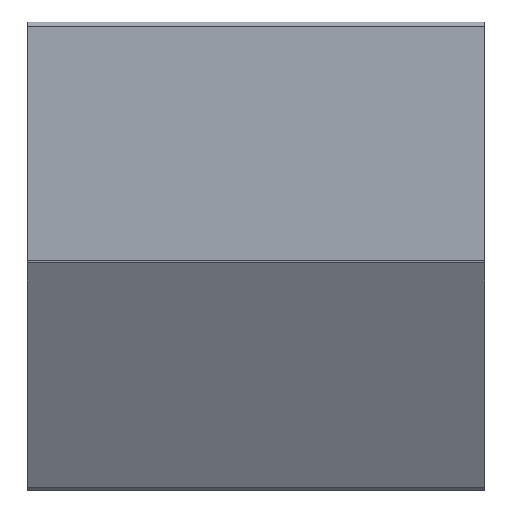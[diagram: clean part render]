
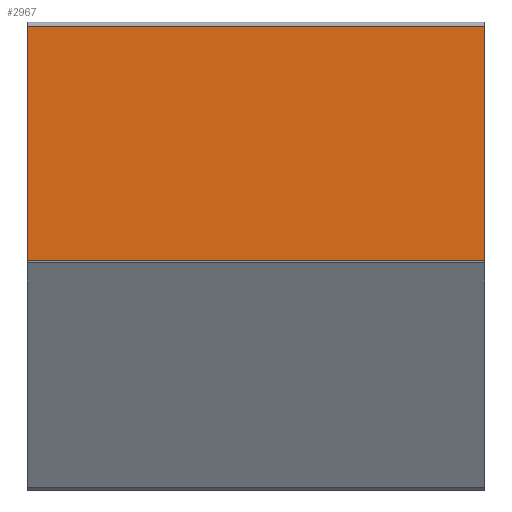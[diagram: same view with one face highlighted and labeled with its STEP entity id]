
A CAD part, top view. The second image highlights one B-rep face of the part: STEP entity #2967.
In plain terms, the highlighted planar face has unit normal (0, 0, 1).
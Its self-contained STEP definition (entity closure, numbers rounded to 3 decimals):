
#173 = VERTEX_POINT('',#174);
#174 = CARTESIAN_POINT('',(127.,-2.438,0.));
#181 = EDGE_CURVE('',#173,#182,#184,.T.);
#182 = VERTEX_POINT('',#183);
#183 = CARTESIAN_POINT('',(127.,-132.697,0.));
#184 = LINE('',#185,#186);
#185 = CARTESIAN_POINT('',(127.,-2.438,0.));
#186 = VECTOR('',#187,1.);
#187 = DIRECTION('',(0.,-1.,0.));
#1353 = VERTEX_POINT('',#1354);
#1354 = CARTESIAN_POINT('',(-127.,-132.697,0.));
#1361 = EDGE_CURVE('',#1362,#1353,#1364,.T.);
#1362 = VERTEX_POINT('',#1363);
#1363 = CARTESIAN_POINT('',(-127.,-2.438,0.));
#1364 = LINE('',#1365,#1366);
#1365 = CARTESIAN_POINT('',(-127.,-2.438,0.));
#1366 = VECTOR('',#1367,1.);
#1367 = DIRECTION('',(0.,-1.,0.));
#2955 = EDGE_CURVE('',#1353,#182,#2956,.T.);
#2956 = LINE('',#2957,#2958);
#2957 = CARTESIAN_POINT('',(-127.,-132.697,0.));
#2958 = VECTOR('',#2959,1.);
#2959 = DIRECTION('',(1.,0.,0.));
#2967 = ADVANCED_FACE('',(#2968),#2979,.T.);
#2968 = FACE_BOUND('',#2969,.T.);
#2969 = EDGE_LOOP('',(#2970,#2971,#2977,#2978));
#2970 = ORIENTED_EDGE('',*,*,#181,.F.);
#2971 = ORIENTED_EDGE('',*,*,#2972,.F.);
#2972 = EDGE_CURVE('',#1362,#173,#2973,.T.);
#2973 = LINE('',#2974,#2975);
#2974 = CARTESIAN_POINT('',(-127.,-2.438,0.));
#2975 = VECTOR('',#2976,1.);
#2976 = DIRECTION('',(1.,0.,0.));
#2977 = ORIENTED_EDGE('',*,*,#1361,.T.);
#2978 = ORIENTED_EDGE('',*,*,#2955,.T.);
#2979 = PLANE('',#2980);
#2980 = AXIS2_PLACEMENT_3D('',#2981,#2982,#2983);
#2981 = CARTESIAN_POINT('',(-127.,0.,0.)
  );
#2982 = DIRECTION('',(0.,0.,1.));
#2983 = DIRECTION('',(1.,0.,0.));
